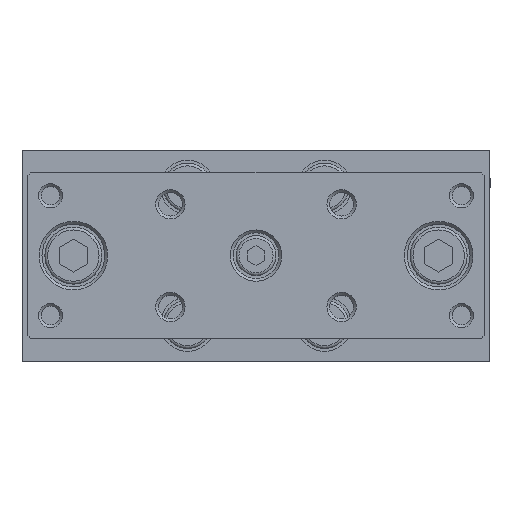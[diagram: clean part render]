
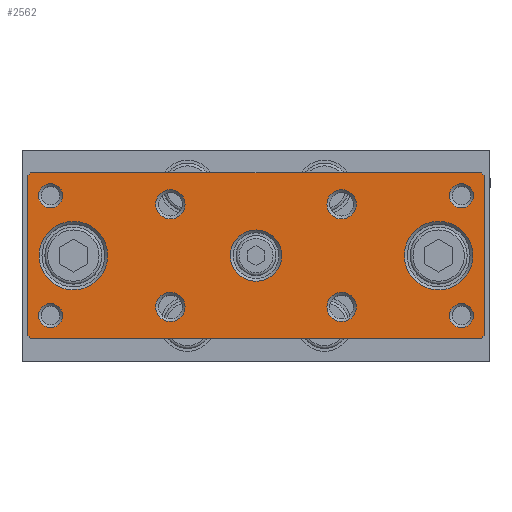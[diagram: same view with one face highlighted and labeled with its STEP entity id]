
A CAD part, top view. The second image highlights one B-rep face of the part: STEP entity #2562.
In plain terms, the highlighted planar face has unit normal (0, 0, 1).
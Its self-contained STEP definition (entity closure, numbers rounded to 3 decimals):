
#2366=CARTESIAN_POINT('',(-12.193,-7.317,104.5));
#2367=VERTEX_POINT('',#2366);
#2368=CARTESIAN_POINT('',(-14.76,-7.317,104.5));
#2369=DIRECTION('',(0.0,0.0,1.0));
#2370=DIRECTION('',(-1.0,0.0,0.0));
#2371=AXIS2_PLACEMENT_3D('',#2368,#2369,#2370);
#2372=CIRCLE('',#2371,2.567);
#2373=EDGE_CURVE('',#2367,#2367,#2372,.T.);
#2378=CARTESIAN_POINT('',(-39.76,1.683,104.5));
#2379=DIRECTION('',(0.0,0.0,1.0));
#2380=DIRECTION('',(1.0,0.0,0.0));
#2381=AXIS2_PLACEMENT_3D('',#2378,#2379,#2380);
#2382=PLANE('',#2381);
#2383=CARTESIAN_POINT('',(-39.76,15.683,104.5));
#2384=VERTEX_POINT('',#2383);
#2385=CARTESIAN_POINT('',(-39.26,16.183,104.5));
#2386=VERTEX_POINT('',#2385);
#2387=CARTESIAN_POINT('',(-39.76,15.683,104.5));
#2388=DIRECTION('',(0.707,0.707,0.0));
#2389=VECTOR('',#2388,0.707);
#2390=LINE('',#2387,#2389);
#2391=EDGE_CURVE('',#2384,#2386,#2390,.T.);
#2392=ORIENTED_EDGE('',*,*,#2391,.F.);
#2393=CARTESIAN_POINT('',(-39.76,-12.317,104.5));
#2394=VERTEX_POINT('',#2393);
#2395=CARTESIAN_POINT('',(-39.76,15.683,104.5));
#2396=DIRECTION('',(0.0,-1.0,0.0));
#2397=VECTOR('',#2396,28.);
#2398=LINE('',#2395,#2397);
#2399=EDGE_CURVE('',#2384,#2394,#2398,.T.);
#2400=ORIENTED_EDGE('',*,*,#2399,.T.);
#2401=CARTESIAN_POINT('',(-39.26,-12.817,104.5));
#2402=VERTEX_POINT('',#2401);
#2403=CARTESIAN_POINT('',(-39.26,-12.817,104.5));
#2404=DIRECTION('',(-0.707,0.707,0.0));
#2405=VECTOR('',#2404,0.707);
#2406=LINE('',#2403,#2405);
#2407=EDGE_CURVE('',#2402,#2394,#2406,.T.);
#2408=ORIENTED_EDGE('',*,*,#2407,.F.);
#2409=CARTESIAN_POINT('',(39.74,-12.817,104.5));
#2410=VERTEX_POINT('',#2409);
#2411=CARTESIAN_POINT('',(-39.26,-12.817,104.5));
#2412=DIRECTION('',(1.0,0.0,0.0));
#2413=VECTOR('',#2412,79.0);
#2414=LINE('',#2411,#2413);
#2415=EDGE_CURVE('',#2402,#2410,#2414,.T.);
#2416=ORIENTED_EDGE('',*,*,#2415,.T.);
#2417=CARTESIAN_POINT('',(40.24,-12.317,104.5));
#2418=VERTEX_POINT('',#2417);
#2419=CARTESIAN_POINT('',(40.24,-12.317,104.5));
#2420=DIRECTION('',(-0.707,-0.707,0.0));
#2421=VECTOR('',#2420,0.707);
#2422=LINE('',#2419,#2421);
#2423=EDGE_CURVE('',#2418,#2410,#2422,.T.);
#2424=ORIENTED_EDGE('',*,*,#2423,.F.);
#2425=CARTESIAN_POINT('',(40.24,15.683,104.5));
#2426=VERTEX_POINT('',#2425);
#2427=CARTESIAN_POINT('',(40.24,-12.317,104.5));
#2428=DIRECTION('',(0.0,1.0,0.0));
#2429=VECTOR('',#2428,28.);
#2430=LINE('',#2427,#2429);
#2431=EDGE_CURVE('',#2418,#2426,#2430,.T.);
#2432=ORIENTED_EDGE('',*,*,#2431,.T.);
#2433=CARTESIAN_POINT('',(39.74,16.183,104.5));
#2434=VERTEX_POINT('',#2433);
#2435=CARTESIAN_POINT('',(39.74,16.183,104.5));
#2436=DIRECTION('',(0.707,-0.707,0.0));
#2437=VECTOR('',#2436,0.707);
#2438=LINE('',#2435,#2437);
#2439=EDGE_CURVE('',#2434,#2426,#2438,.T.);
#2440=ORIENTED_EDGE('',*,*,#2439,.F.);
#2441=CARTESIAN_POINT('',(39.74,16.183,104.5));
#2442=DIRECTION('',(-1.0,0.0,0.0));
#2443=VECTOR('',#2442,79.0);
#2444=LINE('',#2441,#2443);
#2445=EDGE_CURVE('',#2434,#2386,#2444,.T.);
#2446=ORIENTED_EDGE('',*,*,#2445,.T.);
#2447=EDGE_LOOP('',(#2392,#2400,#2408,#2416,#2424,#2432,#2440,#2446));
#2448=FACE_OUTER_BOUND('',#2447,.T.);
#2449=CARTESIAN_POINT('',(17.807,10.683,104.5));
#2450=VERTEX_POINT('',#2449);
#2451=CARTESIAN_POINT('',(15.24,10.683,104.5));
#2452=DIRECTION('',(0.0,0.0,1.0));
#2453=DIRECTION('',(-1.0,0.0,0.0));
#2454=AXIS2_PLACEMENT_3D('',#2451,#2452,#2453);
#2455=CIRCLE('',#2454,2.567);
#2456=EDGE_CURVE('',#2450,#2450,#2455,.T.);
#2457=ORIENTED_EDGE('',*,*,#2456,.F.);
#2458=EDGE_LOOP('',(#2457));
#2459=FACE_BOUND('',#2458,.T.);
#2460=CARTESIAN_POINT('',(-12.193,10.683,104.5));
#2461=VERTEX_POINT('',#2460);
#2462=CARTESIAN_POINT('',(-14.76,10.683,104.5));
#2463=DIRECTION('',(0.0,0.0,1.0));
#2464=DIRECTION('',(-1.0,0.0,0.0));
#2465=AXIS2_PLACEMENT_3D('',#2462,#2463,#2464);
#2466=CIRCLE('',#2465,2.567);
#2467=EDGE_CURVE('',#2461,#2461,#2466,.T.);
#2468=ORIENTED_EDGE('',*,*,#2467,.F.);
#2469=EDGE_LOOP('',(#2468));
#2470=FACE_BOUND('',#2469,.T.);
#2471=CARTESIAN_POINT('',(4.74,1.683,104.5));
#2472=VERTEX_POINT('',#2471);
#2473=CARTESIAN_POINT('',(0.24,1.683,104.5));
#2474=DIRECTION('',(0.0,0.0,1.0));
#2475=DIRECTION('',(-1.0,0.0,0.0));
#2476=AXIS2_PLACEMENT_3D('',#2473,#2474,#2475);
#2477=CIRCLE('',#2476,4.5);
#2478=EDGE_CURVE('',#2472,#2472,#2477,.T.);
#2479=ORIENTED_EDGE('',*,*,#2478,.F.);
#2480=EDGE_LOOP('',(#2479));
#2481=FACE_BOUND('',#2480,.T.);
#2482=CARTESIAN_POINT('',(-25.76,1.683,104.5));
#2483=VERTEX_POINT('',#2482);
#2484=CARTESIAN_POINT('',(-31.76,1.683,104.5));
#2485=DIRECTION('',(0.0,0.0,1.0));
#2486=DIRECTION('',(-1.0,0.0,0.0));
#2487=AXIS2_PLACEMENT_3D('',#2484,#2485,#2486);
#2488=CIRCLE('',#2487,6.);
#2489=EDGE_CURVE('',#2483,#2483,#2488,.T.);
#2490=ORIENTED_EDGE('',*,*,#2489,.F.);
#2491=EDGE_LOOP('',(#2490));
#2492=FACE_BOUND('',#2491,.T.);
#2493=CARTESIAN_POINT('',(38.24,1.683,104.5));
#2494=VERTEX_POINT('',#2493);
#2495=CARTESIAN_POINT('',(32.24,1.683,104.5));
#2496=DIRECTION('',(0.0,0.0,1.0));
#2497=DIRECTION('',(-1.0,0.0,0.0));
#2498=AXIS2_PLACEMENT_3D('',#2495,#2496,#2497);
#2499=CIRCLE('',#2498,6.);
#2500=EDGE_CURVE('',#2494,#2494,#2499,.T.);
#2501=ORIENTED_EDGE('',*,*,#2500,.F.);
#2502=EDGE_LOOP('',(#2501));
#2503=FACE_BOUND('',#2502,.T.);
#2504=CARTESIAN_POINT('',(38.361,-8.817,104.5));
#2505=VERTEX_POINT('',#2504);
#2506=CARTESIAN_POINT('',(36.24,-8.817,104.5));
#2507=DIRECTION('',(0.0,0.0,1.0));
#2508=DIRECTION('',(-1.0,0.0,0.0));
#2509=AXIS2_PLACEMENT_3D('',#2506,#2507,#2508);
#2510=CIRCLE('',#2509,2.121);
#2511=EDGE_CURVE('',#2505,#2505,#2510,.T.);
#2512=ORIENTED_EDGE('',*,*,#2511,.F.);
#2513=EDGE_LOOP('',(#2512));
#2514=FACE_BOUND('',#2513,.T.);
#2515=CARTESIAN_POINT('',(38.361,12.183,104.5));
#2516=VERTEX_POINT('',#2515);
#2517=CARTESIAN_POINT('',(36.24,12.183,104.5));
#2518=DIRECTION('',(0.0,0.0,1.0));
#2519=DIRECTION('',(-1.0,0.0,0.0));
#2520=AXIS2_PLACEMENT_3D('',#2517,#2518,#2519);
#2521=CIRCLE('',#2520,2.121);
#2522=EDGE_CURVE('',#2516,#2516,#2521,.T.);
#2523=ORIENTED_EDGE('',*,*,#2522,.F.);
#2524=EDGE_LOOP('',(#2523));
#2525=FACE_BOUND('',#2524,.T.);
#2526=CARTESIAN_POINT('',(-33.639,-8.817,104.5));
#2527=VERTEX_POINT('',#2526);
#2528=CARTESIAN_POINT('',(-35.76,-8.817,104.5));
#2529=DIRECTION('',(0.0,0.0,1.0));
#2530=DIRECTION('',(-1.0,0.0,0.0));
#2531=AXIS2_PLACEMENT_3D('',#2528,#2529,#2530);
#2532=CIRCLE('',#2531,2.121);
#2533=EDGE_CURVE('',#2527,#2527,#2532,.T.);
#2534=ORIENTED_EDGE('',*,*,#2533,.F.);
#2535=EDGE_LOOP('',(#2534));
#2536=FACE_BOUND('',#2535,.T.);
#2537=CARTESIAN_POINT('',(-33.639,12.183,104.5));
#2538=VERTEX_POINT('',#2537);
#2539=CARTESIAN_POINT('',(-35.76,12.183,104.5));
#2540=DIRECTION('',(0.0,0.0,1.0));
#2541=DIRECTION('',(-1.0,0.0,0.0));
#2542=AXIS2_PLACEMENT_3D('',#2539,#2540,#2541);
#2543=CIRCLE('',#2542,2.121);
#2544=EDGE_CURVE('',#2538,#2538,#2543,.T.);
#2545=ORIENTED_EDGE('',*,*,#2544,.F.);
#2546=EDGE_LOOP('',(#2545));
#2547=FACE_BOUND('',#2546,.T.);
#2548=CARTESIAN_POINT('',(17.807,-7.317,104.5));
#2549=VERTEX_POINT('',#2548);
#2550=CARTESIAN_POINT('',(15.24,-7.317,104.5));
#2551=DIRECTION('',(0.0,0.0,1.0));
#2552=DIRECTION('',(-1.0,0.0,0.0));
#2553=AXIS2_PLACEMENT_3D('',#2550,#2551,#2552);
#2554=CIRCLE('',#2553,2.567);
#2555=EDGE_CURVE('',#2549,#2549,#2554,.T.);
#2556=ORIENTED_EDGE('',*,*,#2555,.F.);
#2557=EDGE_LOOP('',(#2556));
#2558=FACE_BOUND('',#2557,.T.);
#2559=ORIENTED_EDGE('',*,*,#2373,.F.);
#2560=EDGE_LOOP('',(#2559));
#2561=FACE_BOUND('',#2560,.T.);
#2562=ADVANCED_FACE('',(#2448,#2459,#2470,#2481,#2492,#2503,#2514,#2525,#2536,#2547,#2558,#2561),#2382,.T.);
